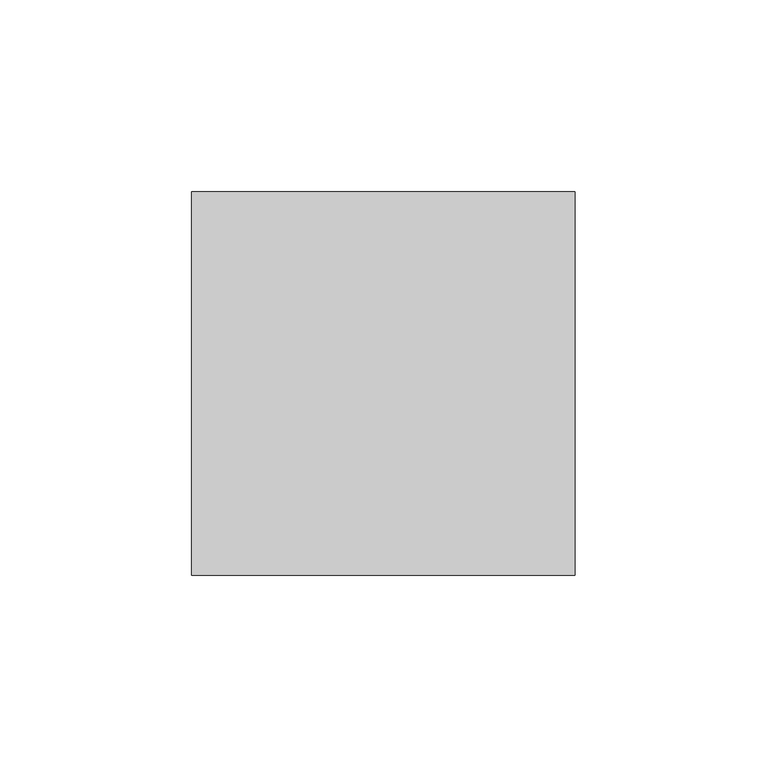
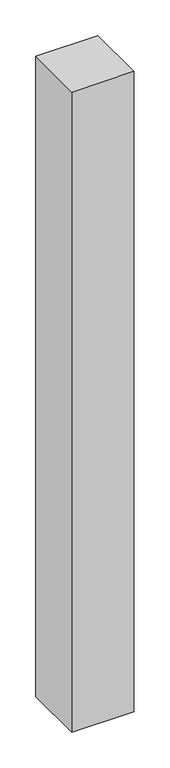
"""IFC4 building model written with IfcOpenShell, lengths in millimetres: proxy geometry, Брус : 100х100."""

from ifc_helpers import new_model, si_unit, origin, origin_with_axes, place, context, project, spatial, polyline, outline, extrude, source, transform, mapped, element, save


def generic_models_2fa727b8(model_context):
    return source(origin(), model_context, "Body", "SweptSolid", [
        extrude(outline(polyline([(100.0, 0.0), (0.0, 0.0), (0.0, 100.0), (100.0, 100.0), (100.0, 0.0)])), origin_with_axes(), (0.0, 0.0, 1.0), 1090.0),
    ])


if __name__ == "__main__":
    model = new_model("IFC4")
    model_context = context("Model", 3, world=origin())
    ifc_project = project(units=[si_unit("LENGTHUNIT", "METRE", prefix="MILLI")], contexts=[model_context])
    site = spatial("IfcSite", under=ifc_project)
    building = spatial("IfcBuilding", under=site)
    placement = place(None, origin())
    generic_models_shape = generic_models_2fa727b8(model_context)
    element("IfcBuildingElementProxy", 1, Name="Брус : 100х100", ObjectType="Брус : 100х100", at=placement, inside=building, context=model_context, shape_type="MappedRepresentation", body=[
        mapped(generic_models_shape, transform((0.0, 0.0, 0.0), x_axis=(1.0, 0.0, 0.0), y_axis=(0.0, 1.0, 0.0), z_axis=(0.0, 0.0, 1.0))),
    ])
    save(model, "model.ifc")
